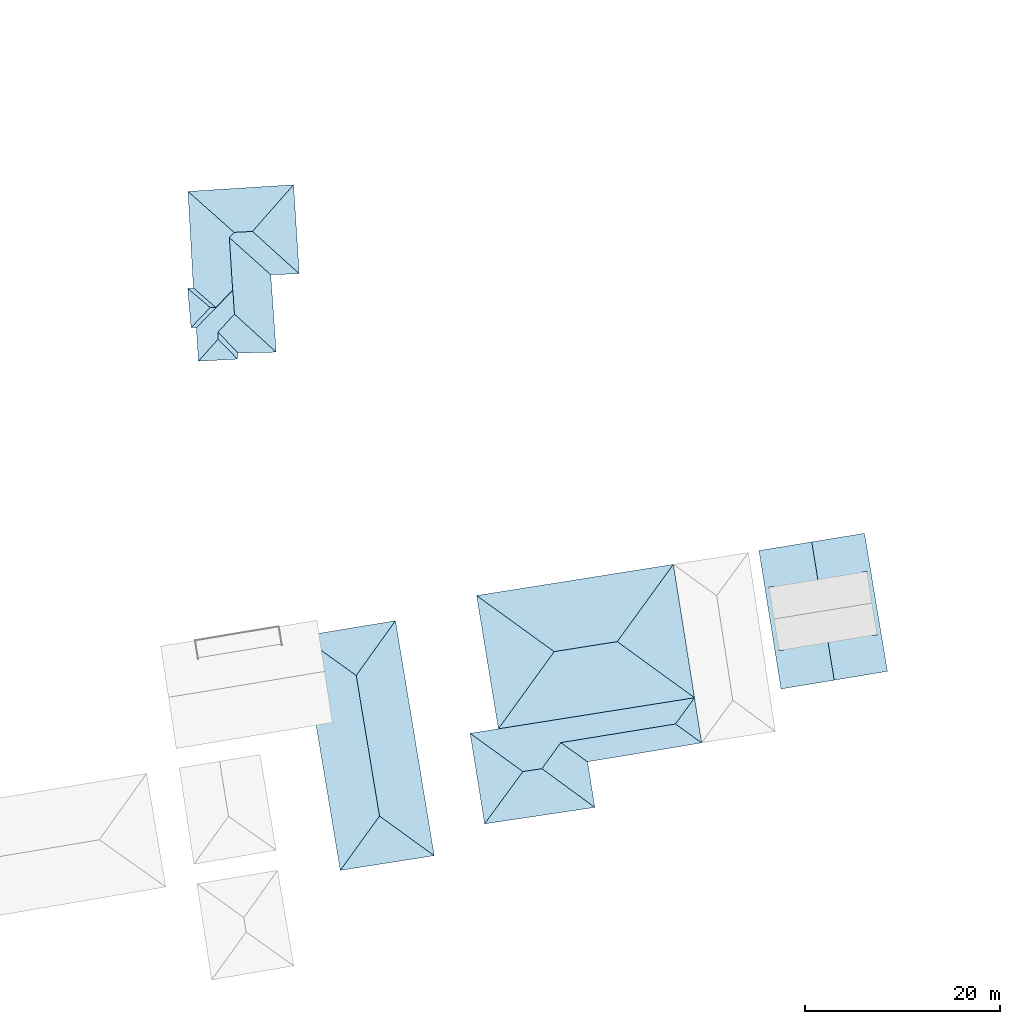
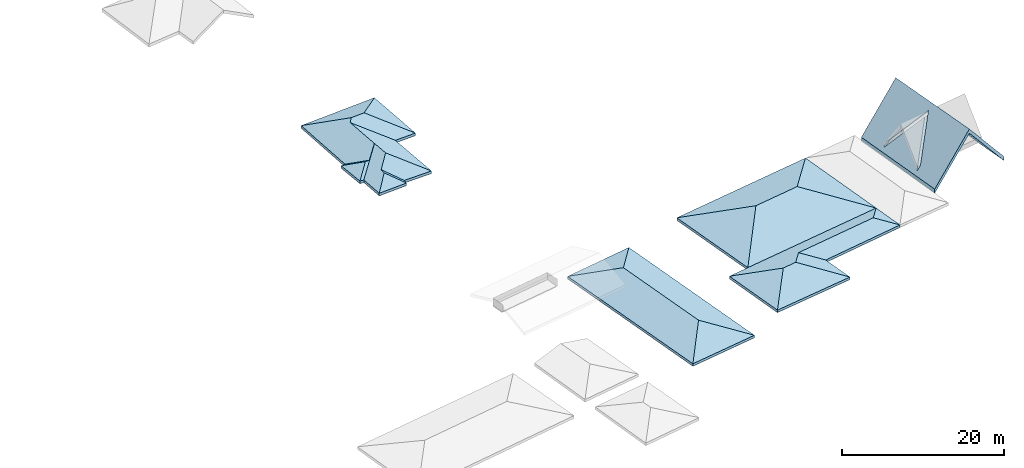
# One storey, part 3 of 5: 5 roofs.
"""IFC2X3 building model written with IfcOpenShell, lengths in metres."""

from ifc_helpers import new_model, entity, si_unit, converted_unit, derived_unit, direction, frame, origin, place, context, subcontext, project, spatial, faceted_brep, material, layer, layer_set, element, save


model = new_model("IFC2X3")

# Units and contexts
model_context = context("Model", 3, precision=1e-05, world=origin(), true_north=direction((6.123031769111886e-17, 1.0)))
body_context = subcontext(model_context, "Body", "Model", "MODEL_VIEW")
ifc_project = project(units=[si_unit("LENGTHUNIT", "METRE"), si_unit("AREAUNIT", "SQUARE_METRE"), si_unit("VOLUMEUNIT", "CUBIC_METRE"), converted_unit("PLANEANGLEUNIT", "DEGREE", entity("IfcRatioMeasure", 0.017453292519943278), si_unit("PLANEANGLEUNIT", "RADIAN"), dimensions=[0, 0, 0, 0, 0, 0, 0]), si_unit("MASSUNIT", "GRAM", prefix="KILO"), derived_unit("MASSDENSITYUNIT", [(si_unit("MASSUNIT", "GRAM", prefix="KILO"), 1), (si_unit("LENGTHUNIT", "METRE"), -3)]), derived_unit("IONCONCENTRATIONUNIT", [(si_unit("MASSUNIT", "GRAM", prefix="KILO"), 1), (si_unit("LENGTHUNIT", "METRE"), -3)]), derived_unit("MOMENTOFINERTIAUNIT", [(si_unit("LENGTHUNIT", "METRE"), 4)]), si_unit("TIMEUNIT", "SECOND"), si_unit("FREQUENCYUNIT", "HERTZ"), si_unit("THERMODYNAMICTEMPERATUREUNIT", "DEGREE_CELSIUS"), derived_unit("THERMALTRANSMITTANCEUNIT", [(si_unit("MASSUNIT", "GRAM", prefix="KILO"), 1), (si_unit("THERMODYNAMICTEMPERATUREUNIT", "KELVIN"), -1), (si_unit("TIMEUNIT", "SECOND"), -3)]), derived_unit("THERMALCONDUCTANCEUNIT", [(si_unit("MASSUNIT", "GRAM", prefix="KILO"), 1), (si_unit("THERMODYNAMICTEMPERATUREUNIT", "KELVIN"), -1), (si_unit("TIMEUNIT", "SECOND"), -3), (si_unit("LENGTHUNIT", "METRE"), 1)]), derived_unit("VOLUMETRICFLOWRATEUNIT", [(si_unit("LENGTHUNIT", "METRE"), 3), (si_unit("TIMEUNIT", "SECOND"), -1)]), derived_unit("MASSFLOWRATEUNIT", [(si_unit("MASSUNIT", "GRAM", prefix="KILO"), 1), (si_unit("TIMEUNIT", "SECOND"), -1)]), derived_unit("ROTATIONALFREQUENCYUNIT", [(si_unit("TIMEUNIT", "SECOND"), -1)]), si_unit("ELECTRICCURRENTUNIT", "AMPERE"), si_unit("ELECTRICVOLTAGEUNIT", "VOLT"), si_unit("POWERUNIT", "WATT"), si_unit("FORCEUNIT", "NEWTON", prefix="KILO"), si_unit("ILLUMINANCEUNIT", "LUX"), si_unit("LUMINOUSFLUXUNIT", "LUMEN"), si_unit("LUMINOUSINTENSITYUNIT", "CANDELA"), derived_unit("USERDEFINED", [(si_unit("MASSUNIT", "GRAM", prefix="KILO"), -1), (si_unit("LENGTHUNIT", "METRE"), -2), (si_unit("TIMEUNIT", "SECOND"), 3), (si_unit("LUMINOUSFLUXUNIT", "LUMEN"), 1)]), derived_unit("USERDEFINED", [(si_unit("MASSUNIT", "GRAM", prefix="KILO"), 1), (si_unit("TIMEUNIT", "SECOND"), -3), (si_unit("LENGTHUNIT", "METRE"), 3), (si_unit("ELECTRICCURRENTUNIT", "AMPERE"), -2)]), derived_unit("SOUNDPOWERUNIT", [(si_unit("MASSUNIT", "GRAM", prefix="KILO"), 1), (si_unit("TIMEUNIT", "SECOND"), -3), (si_unit("LENGTHUNIT", "METRE"), 2)]), derived_unit("SOUNDPRESSUREUNIT", [(si_unit("MASSUNIT", "GRAM", prefix="KILO"), 1), (si_unit("LENGTHUNIT", "METRE"), -1), (si_unit("TIMEUNIT", "SECOND"), -2)]), derived_unit("LINEARVELOCITYUNIT", [(si_unit("LENGTHUNIT", "METRE"), 1), (si_unit("TIMEUNIT", "SECOND"), -1)]), si_unit("PRESSUREUNIT", "PASCAL"), derived_unit("USERDEFINED", [(si_unit("MASSUNIT", "GRAM", prefix="KILO"), 1), (si_unit("LENGTHUNIT", "METRE"), -2), (si_unit("TIMEUNIT", "SECOND"), -2)]), derived_unit("LINEARFORCEUNIT", [(si_unit("MASSUNIT", "GRAM", prefix="KILO"), 1), (si_unit("TIMEUNIT", "SECOND"), -2)]), derived_unit("PLANARFORCEUNIT", [(si_unit("MASSUNIT", "GRAM", prefix="KILO"), 1), (si_unit("LENGTHUNIT", "METRE"), -1), (si_unit("TIMEUNIT", "SECOND"), -2)]), derived_unit("SPECIFICHEATCAPACITYUNIT", [(si_unit("THERMODYNAMICTEMPERATUREUNIT", "KELVIN"), -1), (si_unit("LENGTHUNIT", "METRE"), 2), (si_unit("TIMEUNIT", "SECOND"), -2)]), derived_unit("HEATINGVALUEUNIT", [(si_unit("LENGTHUNIT", "METRE"), 2), (si_unit("TIMEUNIT", "SECOND"), -2)]), derived_unit("VAPORPERMEABILITYUNIT", [(si_unit("LENGTHUNIT", "METRE"), -1), (si_unit("TIMEUNIT", "SECOND"), 1)]), derived_unit("DYNAMICVISCOSITYUNIT", [(si_unit("MASSUNIT", "GRAM", prefix="KILO"), 1), (si_unit("TIMEUNIT", "SECOND"), -1), (si_unit("LENGTHUNIT", "METRE"), -1)]), derived_unit("THERMALEXPANSIONCOEFFICIENTUNIT", [(si_unit("THERMODYNAMICTEMPERATUREUNIT", "KELVIN"), -1)]), derived_unit("MODULUSOFELASTICITYUNIT", [(si_unit("MASSUNIT", "GRAM", prefix="KILO"), 1), (si_unit("LENGTHUNIT", "METRE"), -1), (si_unit("TIMEUNIT", "SECOND"), -2)]), derived_unit("ISOTHERMALMOISTURECAPACITYUNIT", [(si_unit("LENGTHUNIT", "METRE"), 3), (si_unit("MASSUNIT", "GRAM", prefix="KILO"), -1)]), derived_unit("MOISTUREDIFFUSIVITYUNIT", [(si_unit("TIMEUNIT", "SECOND"), -1), (si_unit("LENGTHUNIT", "METRE"), 2)])], contexts=[model_context])

# Site, building, storey
site_placement = place(None, origin())
site = spatial("IfcSite", under=ifc_project, at=site_placement, Name="Default", CompositionType="ELEMENT")
building_placement = place(site_placement, origin())
building = spatial("IfcBuilding", under=site, at=building_placement, Name="Projeto", CompositionType="ELEMENT")
storey_placement = place(building_placement, frame((0.0, 0.0, 3.0)))
storey = spatial("IfcBuildingStorey", under=building, at=storey_placement, Name="Segundo Pavimento", CompositionType="ELEMENT", Elevation=3.0000000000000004)

# Roofs
ifc_material = material(Name="NBS_Betafence_GreenRAL6005")
ifc_layer = layer(ifc_material, 0.4)
ifc_layer_set = layer_set([ifc_layer], Name="Telhado básico:Genérico - 400 mm")
roof_1_placement = place(storey_placement, frame((-48.1001395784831, -15.208064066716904, 0.05699999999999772)))
element("IfcRoof", 1, at=roof_1_placement, inside=storey, material=ifc_layer_set, Name="Telhado básico:Genérico - 400 mm", ObjectType="Telhado básico:Genérico - 400 mm", ShapeType="NOTDEFINED", context=body_context, shape_type="Brep", body=[
    faceted_brep([(6.633737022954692, 13.288898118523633, 2.0445287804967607), (10.731300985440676, 17.941515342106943, 0.0), (11.2947438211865, 9.07898501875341, 0.0), (3.109882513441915, 2.990427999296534, 0.9651339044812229), (4.793314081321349, 4.828165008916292, 1.8040351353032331), (8.936305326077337, 1.0525193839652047, 0.0), (5.040107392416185, 0.9640075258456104, 0.0), (3.1075136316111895, 2.256350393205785, 0.9418401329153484), (4.995398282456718, 0.33826816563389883, 0.0), (1.2216940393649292, 0.12876131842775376, 0.0), (2.315534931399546, 5.499490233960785, 0.9387417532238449), (2.867186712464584, 5.508542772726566, 0.9536606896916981), (4.608833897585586, 7.27419755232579, 1.8100719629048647), (4.629463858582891, 7.254145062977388, 1.8011296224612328), (1.0001199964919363, 3.539377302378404, 0.0), (0.46405311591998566, 3.5616973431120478, 0.0), (0.13254992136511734, 7.3554383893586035, 0.0), (0.7142798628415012, 7.398816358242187, 0.0), (4.271217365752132, 12.655971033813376, 1.7915937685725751), (8.381325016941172, 8.96786071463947, 0.0), (4.761136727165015, 13.19394128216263, 2.0335637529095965), (0.1676592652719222, 17.272933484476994, 0.0), (11.424689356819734, 8.961615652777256, 0.38435116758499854), (10.845538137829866, 18.071226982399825, 0.38435116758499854), (6.633737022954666, 13.288898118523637, 2.485879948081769), (5.154104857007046, 0.8443288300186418, 0.38435116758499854), (9.067206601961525, 0.933224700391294, 0.3843511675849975), (4.793314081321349, 4.828165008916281, 2.245386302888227), (3.1098825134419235, 2.990427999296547, 1.406485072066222), (1.1075645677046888, 0.0, 0.38435116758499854), (5.109652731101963, 0.2221861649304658, 0.38435116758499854), (3.107513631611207, 2.256350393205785, 1.3831913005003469), (0.3516319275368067, 3.4440353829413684, 0.38435116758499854), (0.8852628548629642, 3.42181676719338, 0.38435116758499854), (4.629463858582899, 7.254145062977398, 2.242480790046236), (4.608833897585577, 7.274197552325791, 2.251423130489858), (2.867186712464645, 5.508542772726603, 1.3950118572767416), (2.3155349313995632, 5.499490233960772, 1.3800929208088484), (0.5856012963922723, 7.511797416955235, 0.38435116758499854), (0.0, 7.468130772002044, 0.38435116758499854), (8.512089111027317, 8.850522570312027, 0.38435116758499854), (4.271217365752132, 12.655971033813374, 2.232944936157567), (0.03890588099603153, 17.387266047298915, 0.3843511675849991), (4.76113672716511, 13.19394128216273, 2.4749149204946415), (0.03890588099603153, 17.387266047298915, 0.0), (0.5856012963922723, 7.511797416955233, 0.0), (0.0, 7.468130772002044, 0.0), (0.3516319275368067, 3.4440353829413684, 0.0), (0.8852628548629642, 3.421816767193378, 0.0), (1.1075645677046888, 0.0, 0.0), (5.109652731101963, 0.2221861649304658, 0.0), (5.154104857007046, 0.8443288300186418, 0.0), (9.067206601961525, 0.9332247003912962, 0.0), (8.512089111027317, 8.850522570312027, 0.0), (11.424689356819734, 8.961615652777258, 0.0), (10.845538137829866, 18.07122698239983, 0.0)], [[[0, 1, 2]], [[3, 4, 5, 6]], [[7, 8, 9]], [[10, 11, 12, 13, 14, 15]], [[11, 10, 16, 17]], [[4, 3, 7, 9, 14, 13]], [[16, 10, 15]], [[13, 12, 18, 19, 5, 4]], [[0, 20, 21, 1]], [[12, 11, 17, 21, 20, 18]], [[20, 0, 2, 19, 18]], [[7, 3, 6, 8]], [[22, 23, 24]], [[25, 26, 27, 28]], [[29, 30, 31]], [[32, 33, 34, 35, 36, 37]], [[37, 36, 38, 39]], [[28, 27, 34, 33, 29, 31]], [[32, 37, 39]], [[27, 26, 40, 41, 35, 34]], [[24, 23, 42, 43]], [[36, 35, 41, 43, 42, 38]], [[22, 24, 43, 41, 40]], [[25, 28, 31, 30]], [[38, 42, 44, 45]], [[39, 38, 45, 46]], [[32, 39, 46, 47]], [[33, 32, 47, 48]], [[29, 33, 48, 49]], [[30, 29, 49, 50]], [[25, 30, 50, 51]], [[26, 25, 51, 52]], [[40, 26, 52, 53]], [[22, 40, 53, 54]], [[23, 22, 54, 55]], [[42, 23, 55, 44]], [[2, 1, 21, 17, 16, 15, 14, 9, 8, 6, 5, 19], [45, 44, 55, 54, 53, 52, 51, 50, 49, 48, 47, 46]]], outer=[[True], [True], [True], [True], [True], [True], [True], [True], [True], [True], [True], [True], [True], [True], [True], [True], [True], [True], [True], [True], [True], [True], [True], [True], [True], [True], [True], [True], [True], [True], [True], [True], [True], [True], [True], [True], [False, True]]),
])
roof_2_placement = place(storey_placement, frame((10.376632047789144, -48.75226703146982, -0.10000000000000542)))
element("IfcRoof", 2, at=roof_2_placement, inside=storey, material=ifc_layer_set, Name="Telhado básico:Genérico - 400 mm", ObjectType="Telhado básico:Genérico - 400 mm", ShapeType="NOTDEFINED", context=body_context, shape_type="Brep", body=[
    faceted_brep([(5.4034673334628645, 15.05642432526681, 6.525749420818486), (7.703849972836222, 0.90338321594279, 6.5806228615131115), (2.2563356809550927, 0.0, 0.0), (0.0, 14.16922695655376, 0.0), (1.4371193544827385, 10.480203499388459, 1.0), (5.844405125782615, 7.864624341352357, 5.696842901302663), (2.471510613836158, 3.9844836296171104, 1.0), (3.0491041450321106, 4.0783635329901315, 1.6973787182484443), (6.421998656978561, 7.95850424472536, 6.394221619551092), (2.0147128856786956, 10.574083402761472, 1.6973787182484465), (10.806878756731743, 15.943612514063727, 0.0), (13.151251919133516, 1.8067478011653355, 0.0), (7.26291218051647, 8.095183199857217, 5.6968429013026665), (10.614958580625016, 11.971935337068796, 1.0), (10.037365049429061, 11.878055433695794, 1.6973787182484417), (6.68531864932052, 8.001303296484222, 6.394221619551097), (11.1134525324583, 5.3891127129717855, 1.6973787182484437), (11.691046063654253, 5.48299261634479, 1.0), (0.0, 14.16922695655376, 0.6222895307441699), (2.2563356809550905, 0.0, 0.6222895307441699), (7.70384997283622, 0.90338321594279, 7.202912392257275), (5.4034673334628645, 15.05642432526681, 7.148038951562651), (5.329003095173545, 7.780852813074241, 5.696842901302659), (1.0030573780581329, 10.348159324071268, 1.0866840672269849), (0.9933197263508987, 10.408069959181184, 1.0864517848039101), (1.4993108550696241, 10.49031187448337, 1.6973787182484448), (5.906596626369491, 7.874732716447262, 6.39422161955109), (2.5337021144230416, 3.9945920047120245, 1.6973787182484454), (2.0485590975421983, 3.9157386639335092, 1.1116235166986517), (2.0360533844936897, 3.9926797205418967, 1.1113252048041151), (13.151251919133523, 1.8067478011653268, 0.622289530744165), (10.806878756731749, 15.943612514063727, 0.6222895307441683), (11.070605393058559, 11.986597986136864, 1.083728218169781), (7.77831421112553, 8.178954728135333, 5.69684290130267), (11.43897683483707, 6.019501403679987, 1.8140431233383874), (11.450212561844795, 6.012873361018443, 1.8021255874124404), (12.10426371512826, 5.627043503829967, 1.1083851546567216), (12.116439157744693, 5.552134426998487, 1.1086755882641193), (11.62885456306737, 5.472884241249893, 1.6973787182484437), (7.200720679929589, 8.085074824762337, 6.394221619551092), (10.55276708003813, 11.9618269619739, 1.6973787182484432), (11.061199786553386, 12.044465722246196, 1.0835038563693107), (11.061199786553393, 12.044465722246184, 1.0), (2.0485590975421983, 3.9157386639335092, 1.0), (12.116439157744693, 5.552134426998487, 1.0), (0.9933197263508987, 10.408069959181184, 1.0)], [[[0, 1, 2, 3], [4, 5, 6, 7, 8, 9]], [[1, 0, 10, 11], [12, 13, 14, 15, 16, 17]], [[18, 19, 20, 21], [22, 23, 24, 25, 26, 27, 28, 29]], [[21, 20, 30, 31], [32, 33, 34, 35, 36, 37, 38, 39, 40, 41]], [[19, 18, 3, 2]], [[31, 30, 11, 10]], [[3, 18, 21, 31, 10, 0]], [[19, 2, 1, 11, 30, 20]], [[12, 33, 32, 42, 13]], [[5, 22, 29, 43, 6]], [[39, 15, 14, 40]], [[26, 8, 7, 27]], [[40, 14, 13, 42, 41]], [[27, 7, 6, 43, 28]], [[36, 44, 37]], [[23, 45, 24]], [[43, 29, 28]], [[42, 32, 41]], [[16, 38, 37, 44, 17]], [[9, 25, 24, 45, 4]], [[15, 39, 38, 16]], [[8, 26, 25, 9]], [[33, 12, 17, 44, 36, 35, 34]], [[45, 23, 22, 5, 4]]]),
])
roof_3_placement = place(storey_placement, frame((-18.52493236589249, -52.82940455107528, 0.9569999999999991)))
element("IfcRoof", 3, at=roof_3_placement, inside=storey, material=ifc_layer_set, Name="Telhado básico:Genérico - 400 mm", ObjectType="Telhado básico:Genérico - 400 mm", ShapeType="NOTDEFINED", context=body_context, shape_type="Brep", body=[
    faceted_brep([(14.398012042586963, 8.927708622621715, 2.4589190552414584), (7.941853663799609, 7.9042961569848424, 2.458919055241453), (0.17992854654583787, 13.514074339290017, 0.0), (20.012815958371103, 16.657929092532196, 0.0), (2.358604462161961, 0.17907765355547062, 0.0), (22.128232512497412, 3.3129047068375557, 0.0), (20.142972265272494, 16.837122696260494, 0.3686711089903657), (0.0, 13.644114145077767, 0.3686711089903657), (7.941853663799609, 7.9042961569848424, 2.8845901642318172), (14.398012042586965, 8.927708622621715, 2.884590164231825), (2.22917962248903, 0.0, 0.3686711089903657), (22.307426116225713, 3.1827483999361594, 0.3686711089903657), (20.142972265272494, 16.837122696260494, 0.0), (0.0, 13.644114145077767, 0.0), (2.22917962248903, 0.0, 0.0), (22.30742611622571, 3.1827483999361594, 0.0)], [[[0, 1, 2, 3]], [[2, 1, 4]], [[0, 3, 5]], [[1, 0, 5, 4]], [[6, 7, 8, 9]], [[8, 7, 10]], [[6, 9, 11]], [[9, 8, 10, 11]], [[7, 6, 12, 13]], [[10, 7, 13, 14]], [[11, 10, 14, 15]], [[6, 11, 15, 12]], [[3, 2, 4, 5], [13, 12, 15, 14]]], outer=[[True], [True], [True], [True], [True], [True], [True], [True], [True], [True], [True], [True], [False, True]]),
])
roof_4_placement = place(storey_placement, frame((-19.188024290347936, -62.55779792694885, 0.9569999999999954)))
element("IfcRoof", 4, at=roof_4_placement, inside=storey, material=ifc_layer_set, Name="Telhado básico:Genérico - 400 mm", ObjectType="Telhado básico:Genérico - 400 mm", ShapeType="NOTDEFINED", context=body_context, shape_type="Brep", body=[
    faceted_brep([(9.281631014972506, 8.319156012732, 0.8136868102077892), (21.01942316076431, 10.224958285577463, 0.7974527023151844), (23.523849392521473, 8.420192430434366, 0.0), (11.84203077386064, 6.478479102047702, 0.0), (5.402435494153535, 5.352533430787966, 1.6590812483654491), (7.349169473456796, 5.652245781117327, 1.6622729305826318), (12.591720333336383, 1.8177467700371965, 0.0), (1.614884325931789, 0.1777855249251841, 0.0), (22.840361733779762, 12.731948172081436, 0.0), (0.1794430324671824, 9.139801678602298, 0.0), (12.021390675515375, 6.349536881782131, 0.3686711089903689), (23.7028597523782, 8.291192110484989, 0.3686711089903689), (21.019423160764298, 10.224958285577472, 1.223123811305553), (9.281631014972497, 8.319156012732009, 1.2393579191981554), (1.4847578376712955, 0.0, 0.3686711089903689), (12.771489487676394, 1.686260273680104, 0.3686711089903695), (7.349169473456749, 5.65224578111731, 2.087944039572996), (5.402435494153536, 5.352533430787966, 2.084752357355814), (23.69985154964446, 8.31016924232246, 0.3686711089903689), (22.970518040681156, 12.911141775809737, 0.3686711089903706), (0.0, 9.269918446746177, 0.3686711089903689), (12.021390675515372, 6.349536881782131, 0.0), (23.7028597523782, 8.291192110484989, 0.0), (23.69985154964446, 8.31016924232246, 0.0), (22.97051804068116, 12.911141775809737, 0.0), (2.8922715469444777, 9.728393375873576, 0.0), (0.0, 9.269918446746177, 0.0), (1.4847578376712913, 0.0, 0.0), (12.771489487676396, 1.686260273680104, 0.0)], [[[0, 1, 2, 3]], [[4, 5, 6, 7]], [[2, 1, 8]], [[4, 7, 9]], [[1, 0, 5, 4, 9, 8]], [[5, 0, 3, 6]], [[10, 11, 12, 13]], [[14, 15, 16, 17]], [[12, 11, 18, 19]], [[14, 17, 20]], [[13, 12, 19, 20, 17, 16]], [[10, 13, 16, 15]], [[11, 10, 21, 22]], [[18, 11, 22, 23, 24, 19]], [[20, 19, 24, 25, 26]], [[14, 20, 26, 27]], [[15, 14, 27, 28]], [[10, 15, 28, 21]], [[3, 2, 8, 9, 7, 6], [22, 21, 28, 27, 26, 25, 24, 23]]], outer=[[True], [True], [True], [True], [True], [True], [True], [True], [True], [True], [True], [True], [True], [True], [True], [True], [True], [True], [False, True]]),
])
roof_5_placement = place(storey_placement, frame((-36.457487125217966, -67.32182889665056, 0.9569999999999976)))
element("IfcRoof", 5, at=roof_5_placement, inside=storey, material=ifc_layer_set, Name="Telhado básico:Genérico - 400 mm", ObjectType="Telhado básico:Genérico - 400 mm", ShapeType="NOTDEFINED", context=body_context, shape_type="Brep", body=[
    faceted_brep([(5.614170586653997, 19.953810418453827, 1.7193722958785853), (7.994981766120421, 5.562243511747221, 1.7165940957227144), (4.107652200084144, 0.1787601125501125, 0.0), (0.18014676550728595, 23.842903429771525, 0.0), (9.50618151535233, 25.38590309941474, 0.0), (13.421846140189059, 1.6392672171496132, 0.0), (0.0, 23.971833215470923, 0.36867110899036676), (3.978572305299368, 0.0, 0.36867110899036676), (7.994981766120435, 5.562243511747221, 2.142265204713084), (5.614170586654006, 19.953810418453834, 2.1450434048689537), (9.63520803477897, 25.565985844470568, 0.36867110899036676), (13.602046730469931, 1.5090036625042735, 0.3686711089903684), (0.0, 23.971833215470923, 0.0), (3.978572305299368, 0.0, 0.0), (13.602046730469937, 1.5090036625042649, 0.0), (9.635208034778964, 25.565985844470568, 0.0)], [[[0, 1, 2, 3]], [[0, 3, 4]], [[1, 0, 4, 5]], [[2, 1, 5]], [[6, 7, 8, 9]], [[10, 6, 9]], [[9, 8, 11, 10]], [[8, 7, 11]], [[7, 6, 12, 13]], [[11, 7, 13, 14]], [[10, 11, 14, 15]], [[6, 10, 15, 12]], [[3, 2, 5, 4], [13, 12, 15, 14]]], outer=[[True], [True], [True], [True], [True], [True], [True], [True], [True], [True], [True], [True], [False, True]]),
])

save(model, "model.ifc")
